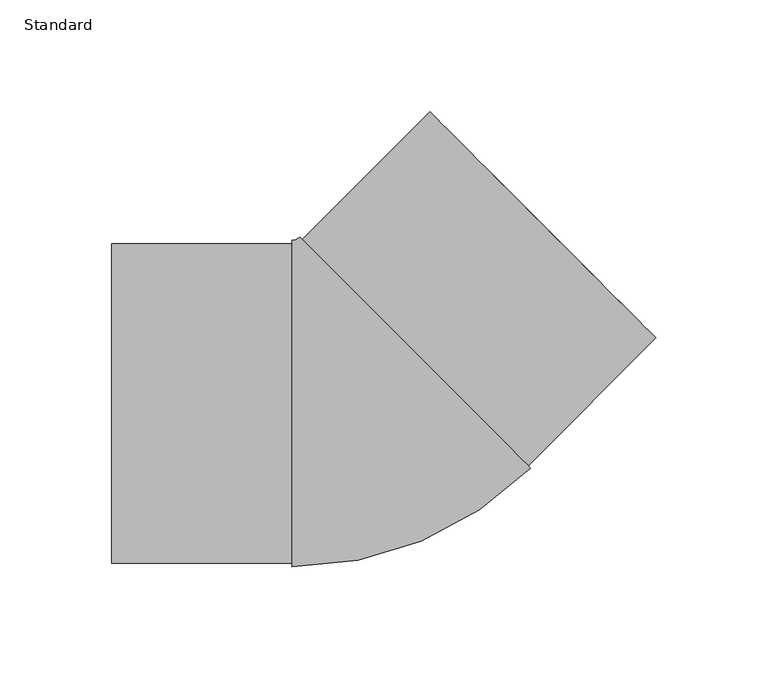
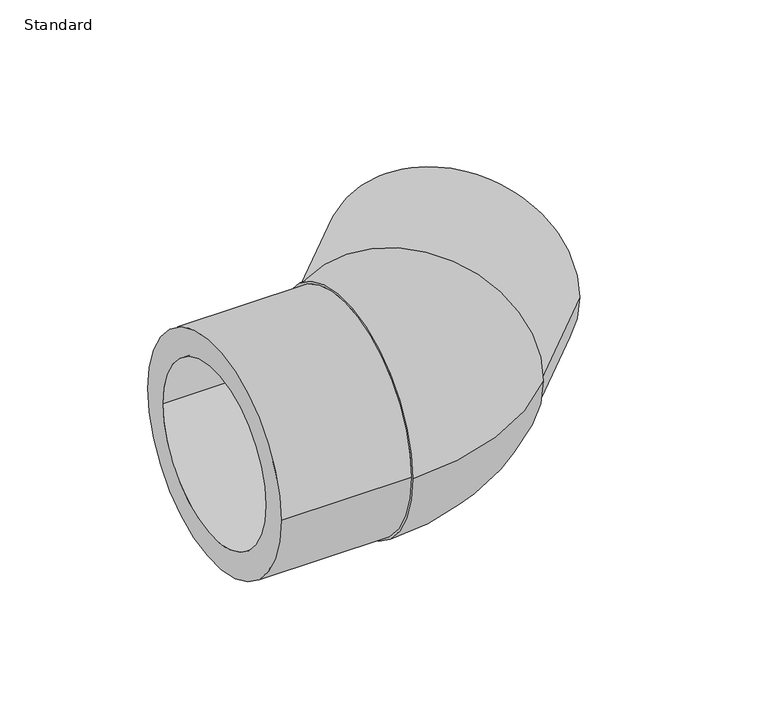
"""IFC4 building model written with IfcOpenShell, lengths in millimetres: pipe fitting geometry, EGB_VASEN_ PPR_Codo a tope 90 WXRB200_Codo a tope 45 WXRB220 : Standard."""

import ifcopenshell
import ifcopenshell.guid

model = None  # the IFC model being written
_history = None  # IfcOwnerHistory: only IFC2X3 demands one
_inside = {}  # id of a spatial element -> (the spatial element, [elements in it])
_under = {}  # id of a project, library or spatial element -> (it, [spatial elements below it])
_declared = {}  # id of a project -> (the project, [libraries it declares])
_typed = {}  # id of a type object -> (the type object, [elements of that type])
_made_of = {}  # id of a material, layer set ... -> (it, [elements and type objects made of it])


def new_model(schema):
    """Start an empty IFC model of exactly this schema.

    Asked for "IFC4X3", IfcOpenShell would pick the latest addendum, in which some entities
    have other attributes; the version numbers below select the first issue.
    IFC2X3 requires an IfcOwnerHistory on every rooted entity: one is made here for all.
    """
    global model, _history
    if schema == "IFC4X3":
        model = ifcopenshell.file(schema_version=(4, 3, 0, 0))
    else:
        model = ifcopenshell.file(schema=schema)
    _inside.clear()
    _under.clear()
    _declared.clear()
    _typed.clear()
    _made_of.clear()
    _history = None
    if model.schema == "IFC2X3":
        org = make("IfcOrganization", Name="unknown")
        user = make(
            "IfcPersonAndOrganization",
            ThePerson=make("IfcPerson", FamilyName="unknown"),
            TheOrganization=org,
        )
        app = make(
            "IfcApplication",
            ApplicationDeveloper=org,
            Version="unknown",
            ApplicationFullName="unknown",
            ApplicationIdentifier="unknown",
        )
        _history = make(
            "IfcOwnerHistory",
            OwningUser=user,
            OwningApplication=app,
            ChangeAction="ADDED",
            CreationDate=0,
        )
    return model


def make(cls, **values):
    """One entity of the class cls with the attributes given. An attribute that is None is left unset."""
    return model.create_entity(
        cls, **{name: value for name, value in values.items() if value is not None}
    )


def rooted(cls, **values):
    """An entity with a GlobalId (a new one), such as an element, a storey or a relation."""
    return make(cls, GlobalId=ifcopenshell.guid.new(), OwnerHistory=_history, **values)


def si_unit(unit_type, name, prefix=None):
    """IfcSIUnit, for example si_unit("LENGTHUNIT", "METRE", prefix="MILLI")."""
    return make("IfcSIUnit", UnitType=unit_type, Prefix=prefix, Name=name)


def assignment(units):
    """IfcUnitAssignment: the units of a project."""
    return None if units is None else make("IfcUnitAssignment", Units=units)


def point(xyz):
    """IfcCartesianPoint."""
    return None if xyz is None else make("IfcCartesianPoint", Coordinates=xyz)


def direction(xyz):
    """IfcDirection."""
    return None if xyz is None else make("IfcDirection", DirectionRatios=xyz)


def frame(location, z_axis=None, x_axis=None):
    """IfcAxis2Placement3D, a coordinate frame: its origin and axes. An axis left out is left unset."""
    return make(
        "IfcAxis2Placement3D",
        Location=point(location),
        Axis=direction(z_axis),
        RefDirection=direction(x_axis),
    )


def origin():
    """The frame at (0, 0, 0) with its axes left unset."""
    return frame((0.0, 0.0, 0.0))


def place(relative_to, where):
    """IfcLocalPlacement: puts the frame where relative to a parent placement (None: the world)."""
    return make(
        "IfcLocalPlacement", PlacementRelTo=relative_to, RelativePlacement=where
    )


def context(
    kind, dimensions, precision=None, world=None, true_north=None, identifier=None
):
    """IfcGeometricRepresentationContext, for example the 3D "Model" context."""
    return make(
        "IfcGeometricRepresentationContext",
        ContextIdentifier=identifier,
        ContextType=kind,
        CoordinateSpaceDimension=dimensions,
        Precision=precision,
        WorldCoordinateSystem=world,
        TrueNorth=true_north,
    )


def project(units=None, contexts=None):
    """IfcProject with its units and contexts."""
    return rooted(
        "IfcProject",
        Name="project",
        RepresentationContexts=contexts,
        UnitsInContext=assignment(units),
    )


def spatial(cls, under=None, at=None, **own):
    """A site, building, storey or space (cls), placed at a placement, below another one or the project."""
    s = rooted(cls, ObjectPlacement=at, **own)
    if under is not None:
        _under.setdefault(under.id(), (under, []))[1].append(s)
    return s


def polyline(points):
    """IfcPolyline through the points."""
    return make("IfcPolyline", Points=[point(p) for p in points])


def circle_curve(where, radius):
    """IfcCircle in the frame where."""
    return make("IfcCircle", Position=where, Radius=radius)


def ellipse_curve(where, semi_axis1, semi_axis2):
    """IfcEllipse in the frame where."""
    return make(
        "IfcEllipse", Position=where, SemiAxis1=semi_axis1, SemiAxis2=semi_axis2
    )


def trimmed(basis, trim1, trim2, sense, master):
    """IfcTrimmedCurve: the piece of a basis curve between two trims."""
    return make(
        "IfcTrimmedCurve",
        BasisCurve=basis,
        Trim1=trim1,
        Trim2=trim2,
        SenseAgreement=sense,
        MasterRepresentation=master,
    )


def shape(context_of_items, identifier, shape_type, items):
    """IfcShapeRepresentation: the items that make up one representation, for example the "Body"."""
    return make(
        "IfcShapeRepresentation",
        ContextOfItems=context_of_items,
        RepresentationIdentifier=identifier,
        RepresentationType=shape_type,
        Items=items,
    )


def source(mapping_origin, context_of_items, identifier, shape_type, items):
    """IfcRepresentationMap: a shape defined once, which mapped items show again and again."""
    return make(
        "IfcRepresentationMap",
        MappingOrigin=mapping_origin,
        MappedRepresentation=shape(context_of_items, identifier, shape_type, items),
    )


def transform(
    local_origin,
    x_axis=None,
    y_axis=None,
    z_axis=None,
    scale=None,
    scale2=None,
    scale3=None,
    uniform=True,
):
    """IfcCartesianTransformationOperator3D, or its non-uniform kind. x_axis, y_axis, z_axis: its Axis1, 2, 3."""
    if uniform:
        return make(
            "IfcCartesianTransformationOperator3D",
            Axis1=direction(x_axis),
            Axis2=direction(y_axis),
            LocalOrigin=point(local_origin),
            Scale=scale,
            Axis3=direction(z_axis),
        )
    return make(
        "IfcCartesianTransformationOperator3DnonUniform",
        Axis1=direction(x_axis),
        Axis2=direction(y_axis),
        LocalOrigin=point(local_origin),
        Scale=scale,
        Axis3=direction(z_axis),
        Scale2=scale2,
        Scale3=scale3,
    )


def mapped(mapping_source, mapping_target):
    """IfcMappedItem: shows the shape of a source again, moved by a transform."""
    return make(
        "IfcMappedItem", MappingSource=mapping_source, MappingTarget=mapping_target
    )


def made_of(thing, what):
    """Note that an element or type object is made of a material, layer set ...; save() writes the relation."""
    if what is not None:
        _made_of.setdefault(what.id(), (what, []))[1].append(thing)
    return thing


def element(
    cls,
    number,
    at=None,
    inside=None,
    cuts=None,
    type_object=None,
    material=None,
    context=None,
    identifier="Body",
    shape_type=None,
    held_by="IfcProductDefinitionShape",
    body=None,
    shapes=None,
    **own,
):
    """One element of the class cls, such as IfcWall. Its Tag is "e" and its number.

    at: its placement. inside: the storey or other place that contains it. cuts: it is an
    opening in that element (IfcRelVoidsElement). A single representation is given by context,
    identifier, shape_type and body (its items); several are given by shapes. held_by: the class
    of the entity that holds the representations. save() writes the other relations.
    """
    e = rooted(cls, Tag="e%d" % number, ObjectPlacement=at, **own)
    if body is not None:
        shapes = [shape(context, identifier, shape_type, body)]
    if shapes is not None:
        e.Representation = make(held_by, Representations=shapes)
    if inside is not None:
        _inside.setdefault(inside.id(), (inside, []))[1].append(e)
    if cuts is not None:
        rooted(
            "IfcRelVoidsElement", RelatingBuildingElement=cuts, RelatedOpeningElement=e
        )
    if type_object is not None:
        _typed.setdefault(type_object.id(), (type_object, []))[1].append(e)
    return made_of(e, material)


def aggregate(whole, parts):
    """IfcRelAggregates: a whole, such as a stair, and the parts it consists of."""
    return rooted("IfcRelAggregates", RelatingObject=whole, RelatedObjects=parts)


def save(model, path):
    """Write the relations noted so far, then the file.

    IfcRelAggregates (storeys below a building ...), IfcRelContainedInSpatialStructure (elements
    in a storey), IfcRelDefinesByType, IfcRelAssociatesMaterial and IfcRelDeclares: one each for
    every whole, place, type object, material and project.
    """
    for whole, parts in _under.values():
        aggregate(whole, parts)
    for where, things in _inside.values():
        rooted(
            "IfcRelContainedInSpatialStructure",
            RelatedElements=things,
            RelatingStructure=where,
        )
    for kind, things in _typed.values():
        rooted("IfcRelDefinesByType", RelatedObjects=things, RelatingType=kind)
    for what, things in _made_of.values():
        rooted("IfcRelAssociatesMaterial", RelatedObjects=things, RelatingMaterial=what)
    for by, libraries in _declared.values():
        rooted("IfcRelDeclares", RelatingContext=by, RelatedDefinitions=libraries)
    model.write(path)


def plane_surface(at):
    """IfcPlane: the flat surface through the origin of the frame at, square to its z axis."""
    return make("IfcPlane", Position=at)


def cylinder_surface(at, radius):
    """IfcCylindricalSurface: all points at the distance radius from the z axis of the frame at."""
    return make("IfcCylindricalSurface", Position=at, Radius=radius)


def revolved_surface(curve, axis_point, axis_direction):
    """IfcSurfaceOfRevolution: the curve turned about the line through axis_point along axis_direction."""
    return make(
        "IfcSurfaceOfRevolution",
        SweptCurve=make("IfcArbitraryOpenProfileDef", ProfileType="CURVE", Curve=curve),
        AxisPosition=make("IfcAxis1Placement", Location=point(axis_point), Axis=direction(axis_direction)),
    )


def advanced_brep(points, edges, surfaces, faces):
    """IfcAdvancedBrep: a solid bounded by faces that lie on surfaces and meet in shared edges.

    An edge is (start, end): straight between two places in points (the first is 0);
    or (start, end, curve); or (start, end, curve, False) where it runs against its curve.
    A face is (place in surfaces, loops), or (place, loops, False) where it looks against
    its surface's normal. A loop lists edges by number (the first is 1), with a minus sign
    where the edge is run from its end to its start. The first loop is the outer one.
    """
    corners = [point(p) for p in points]
    vertices = [make("IfcVertexPoint", VertexGeometry=c) for c in corners]
    made = []
    for start, end, *more in edges:
        made.append(
            make(
                "IfcEdgeCurve",
                EdgeStart=vertices[start],
                EdgeEnd=vertices[end],
                EdgeGeometry=more[0] if more else make("IfcPolyline", Points=[corners[start], corners[end]]),
                SameSense=more[1] if len(more) > 1 else True,
            )
        )
    hull = []
    for where, loops, *sense in faces:
        bounds = []
        for j, loop in enumerate(loops):
            ring = [make("IfcOrientedEdge", EdgeElement=made[abs(k) - 1], Orientation=k > 0) for k in loop]
            bounds.append(
                make(
                    "IfcFaceOuterBound" if j == 0 else "IfcFaceBound",
                    Bound=make("IfcEdgeLoop", EdgeList=ring),
                    Orientation=True,
                )
            )
        hull.append(make("IfcAdvancedFace", Bounds=bounds, FaceSurface=surfaces[where], SameSense=sense[0] if sense else True))
    return make("IfcAdvancedBrep", Outer=make("IfcClosedShell", CfsFaces=hull))


def standard_8423876a(model_context):
    return source(origin(), model_context, "Body", "AdvancedBrep", [
        advanced_brep(
        [(-113.0, -71.5, 0.0), (-113.0, 71.5, 0.0), (-113.0, -55.0, 0.0), (-113.0, 55.0, 0.0), (-32.2375901, -71.5, 0.0), (-32.2375901, 71.5, 0.0), (-32.2375901, -55.0, 0.0), (-32.2375901, 55.0, 0.0), (-32.2375901, -73.0, 0.0), (-32.2375901, 73.0, 0.0), (74.4142136, -28.8233765, 0.0), (-28.8233765, 74.4142136, 0.0), (73.3535534, -27.7627163, 0.0), (-27.7627163, 73.3535534, 0.0), (61.6862915, -16.0954544, 0.0), (-16.0954544, 61.6862915, 0.0), (130.4612011, 29.3449314, 0.0), (29.3449314, 130.4612011, 0.0), (118.7939392, 41.0121933, 0.0), (41.0121933, 118.7939392, 0.0)],
        [
            (0, 1, circle_curve(frame((-113.0, 0.0, 0.0), z_axis=(-1.0, 0.0, 0.0), x_axis=(0.0, 1.0, 0.0)), 71.5)),
            (1, 0, circle_curve(frame((-113.0, 0.0, 0.0), z_axis=(-1.0, 0.0, 0.0), x_axis=(0.0, 1.0, 0.0)), 71.5)),
            (2, 3, circle_curve(frame((-113.0, 0.0, 0.0), z_axis=(1.0, 0.0, 0.0), x_axis=(0.0, 1.0, 0.0)), 55.0)),
            (3, 2, circle_curve(frame((-113.0, 0.0, 0.0), z_axis=(1.0, 0.0, 0.0), x_axis=(0.0, 1.0, 0.0)), 55.0)),
            (0, 4),
            (4, 5, circle_curve(frame((-32.2375901, 0.0, 0.0), z_axis=(-1.0, 0.0, 0.0), x_axis=(0.0, 1.0, 0.0)), 71.5)),
            (5, 1),
            (5, 4, circle_curve(frame((-32.2375901, 0.0, 0.0), z_axis=(-1.0, 0.0, 0.0), x_axis=(0.0, 1.0, 0.0)), 71.5)),
            (2, 6),
            (6, 7, circle_curve(frame((-32.2375901, 0.0, 0.0), z_axis=(1.0, 0.0, 0.0), x_axis=(0.0, 1.0, 0.0)), 55.0)),
            (7, 3),
            (7, 6, circle_curve(frame((-32.2375901, 0.0, 0.0), z_axis=(1.0, 0.0, 0.0), x_axis=(0.0, 1.0, 0.0)), 55.0)),
            (8, 9, circle_curve(frame((-32.2375901, 0.0, 0.0), z_axis=(-1.0, 0.0, 0.0), x_axis=(0.0, 1.0, 0.0)), 73.0)),
            (9, 8, circle_curve(frame((-32.2375901, 0.0, 0.0), z_axis=(-1.0, 0.0, 0.0), x_axis=(0.0, 1.0, 0.0)), 73.0)),
            (10, 11, circle_curve(frame((22.7954185, 22.7954185, 0.0), z_axis=(0.7071067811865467, 0.7071067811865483, 0.0), x_axis=(-0.7071067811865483, 0.7071067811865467, 0.0)), 73.0)),
            (11, 10, circle_curve(frame((22.7954185, 22.7954185, 0.0), z_axis=(0.7071067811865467, 0.7071067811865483, 0.0), x_axis=(-0.7071067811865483, 0.7071067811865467, 0.0)), 73.0)),
            (12, 13, circle_curve(frame((22.7954185, 22.7954185, 0.0), z_axis=(-0.7071067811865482, -0.7071067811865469, 0.0), x_axis=(-0.7071067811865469, 0.7071067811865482, 0.0)), 71.5)),
            (13, 12, circle_curve(frame((22.7954185, 22.7954185, 0.0), z_axis=(-0.7071067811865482, -0.7071067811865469, 0.0), x_axis=(-0.7071067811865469, 0.7071067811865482, 0.0)), 71.5)),
            (14, 15, circle_curve(frame((22.7954185, 22.7954185, 0.0), z_axis=(0.7071067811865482, 0.7071067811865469, 0.0), x_axis=(-0.7071067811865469, 0.7071067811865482, 0.0)), 55.0)),
            (15, 14, circle_curve(frame((22.7954185, 22.7954185, 0.0), z_axis=(0.7071067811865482, 0.7071067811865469, 0.0), x_axis=(-0.7071067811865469, 0.7071067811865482, 0.0)), 55.0)),
            (8, 10, circle_curve(frame((-32.2375901, 77.8284271, 0.0), z_axis=(0.0, 0.0, 1.0), x_axis=(0.0, -1.0, 0.0)), 150.8284271)),
            (11, 9, circle_curve(frame((-32.2375901, 77.8284271, 0.0), z_axis=(0.0, 0.0, -1.0), x_axis=(0.0, -1.0, 0.0)), 4.8284271)),
            (16, 17, circle_curve(frame((79.9030663, 79.9030663, 0.0), z_axis=(0.7071067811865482, 0.7071067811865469, 0.0), x_axis=(-0.7071067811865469, 0.7071067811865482, 0.0)), 71.5)),
            (17, 16, circle_curve(frame((79.9030663, 79.9030663, 0.0), z_axis=(0.7071067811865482, 0.7071067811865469, 0.0), x_axis=(-0.7071067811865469, 0.7071067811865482, 0.0)), 71.5)),
            (18, 19, circle_curve(frame((79.9030663, 79.9030663, 0.0), z_axis=(-0.7071067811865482, -0.7071067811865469, 0.0), x_axis=(-0.7071067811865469, 0.7071067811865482, 0.0)), 55.0)),
            (19, 18, circle_curve(frame((79.9030663, 79.9030663, 0.0), z_axis=(-0.7071067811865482, -0.7071067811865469, 0.0), x_axis=(-0.7071067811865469, 0.7071067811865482, 0.0)), 55.0)),
            (17, 13),
            (12, 16),
            (19, 15),
            (14, 18),
        ],
        [
            plane_surface(frame((-113.0, 0.0, 0.0), z_axis=(-1.0, 0.0, 0.0), x_axis=(0.0, 0.0, 1.0))),
            cylinder_surface(frame((-113.0, 0.0, 0.0), z_axis=(-1.0, 0.0, 0.0), x_axis=(0.0, 1.0, 0.0)), 71.5),
            revolved_surface(polyline([(-32.237590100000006, 55.0, 0.0), (-113.0, 55.0, 0.0)]), (-113.0, 0.0, 0.0), (1.0, 0.0, 0.0)),
            plane_surface(frame((-32.2375901, 0.0, 0.0), z_axis=(-1.0, 0.0, 0.0), x_axis=(0.0, 0.0, 1.0))),
            plane_surface(frame((22.7954185, 22.7954185, 0.0), z_axis=(0.7071067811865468, 0.7071067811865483, 0.0), x_axis=(0.0, 0.0, 1.0))),
            revolved_surface(trimmed(ellipse_curve(frame((-32.2375901, 0.0, 0.0), z_axis=(-1.0, 0.0, 0.0), x_axis=(0.0, 1.0, 0.0)), 73.0, 73.0), [point((-32.2375901, -73.0, 0.0))], [point((-32.2375901, 73.0, 0.0))], True, "CARTESIAN"), (-32.2375901, 77.8284271, 0.0), (0.0, 0.0, 1.0)),
            revolved_surface(trimmed(ellipse_curve(frame((-32.2375901, 0.0, 0.0), z_axis=(-1.0, 0.0, 0.0), x_axis=(0.0, 1.0, 0.0)), 73.0, 73.0), [point((-32.2375901, 73.0, 0.0))], [point((-32.2375901, -73.0, 0.0))], True, "CARTESIAN"), (-32.2375901, 77.8284271, 0.0), (0.0, 0.0, 1.0)),
            plane_surface(frame((79.9030663, 79.9030663, 0.0), z_axis=(0.7071067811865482, 0.7071067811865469, 0.0), x_axis=(0.0, 0.0, 1.0))),
            cylinder_surface(frame((22.7954185, 22.7954185, 0.0), z_axis=(-0.7071067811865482, -0.7071067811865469, 0.0), x_axis=(-0.7071067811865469, 0.7071067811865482, 0.0)), 71.5),
            revolved_surface(polyline([(41.012193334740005, 118.79393926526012, 0.0), (-16.09545446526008, 61.686291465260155, 0.0)]), (22.7954185, 22.7954185, 0.0), (0.7071067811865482, 0.7071067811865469, 0.0)),
        ],
        [
            (0, [[1, 2], [3, 4]]),
            (1, [[-1, 5, 6, 7]]),
            (1, [[-2, -7, 8, -5]]),
            (2, [[-3, 9, 10, 11]]),
            (2, [[-4, -11, 12, -9]]),
            (3, [[-10, -12]]),
            (3, [[13, 14], [-6, -8]]),
            (4, [[15, 16], [17, 18]]),
            (4, [[19, 20]]),
            (5, [[-13, 21, -16, 22]]),
            (6, [[-14, -22, -15, -21]]),
            (7, [[23, 24], [25, 26]]),
            (8, [[-24, 27, -17, 28]]),
            (8, [[-23, -28, -18, -27]]),
            (9, [[-26, 29, -19, 30]]),
            (9, [[-25, -30, -20, -29]]),
        ],
    ),
    ])


if __name__ == "__main__":
    model = new_model("IFC4")
    model_context = context("Model", 3, world=origin())
    ifc_project = project(units=[si_unit("LENGTHUNIT", "METRE", prefix="MILLI")], contexts=[model_context])
    site = spatial("IfcSite", under=ifc_project)
    building = spatial("IfcBuilding", under=site)
    placement = place(None, origin())
    standard_shape = standard_8423876a(model_context)
    element("IfcPipeFitting", 1, ObjectType="EGB_VASEN_ PPR_Codo a tope 90 WXRB200_Codo a tope 45 WXRB220 : Standard", at=placement, inside=building, context=model_context, shape_type="MappedRepresentation", body=[
        mapped(standard_shape, transform((0.0, 0.0, 0.0), x_axis=(1.0, 0.0, 0.0), y_axis=(0.0, 1.0, 0.0), z_axis=(0.0, 0.0, 1.0))),
    ])
    save(model, "model.ifc")
